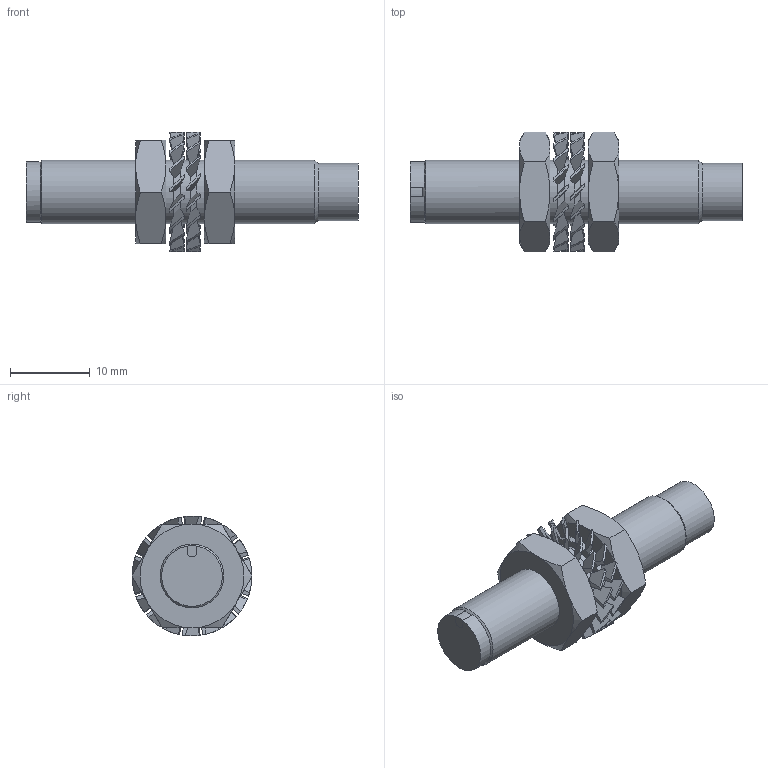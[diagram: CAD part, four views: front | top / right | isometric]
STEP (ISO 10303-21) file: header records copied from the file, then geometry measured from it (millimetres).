
FILE_DESCRIPTION((''),'2;1');
FILE_NAME('C:\TurckZip\Ni-EG08-X.stp','2009-02-25T11:29:58',('IKOROL'),(''),'Autodesk Inventor 2009','Autodesk Inventor 2009','');
FILE_SCHEMA(('CONFIG_CONTROL_DESIGN'));
Length unit declared in the file: millimetre
Products named in the file (1): Part1
Bounding box: 41.6 x 15.01 x 15 mm (x, y, z)
Volume: 2852.7 mm3; surface area: 2243.3 mm2
Topology: 3 solids, 3 shells, 280 faces, 784 edges, 514 vertices
Faces by surface type: plane 134, cone 102, cylinder 44
Full cylindrical faces by diameter (mm): 7.2 x1, 8 x3, 8.4 x2
Entity records: 9143 total; most frequent: CARTESIAN_POINT 1795, ORIENTED_EDGE 1528, DIRECTION 1466, EDGE_CURVE 764, AXIS2_PLACEMENT_3D 543, VERTEX_POINT 506, VECTOR 380, LINE 380
